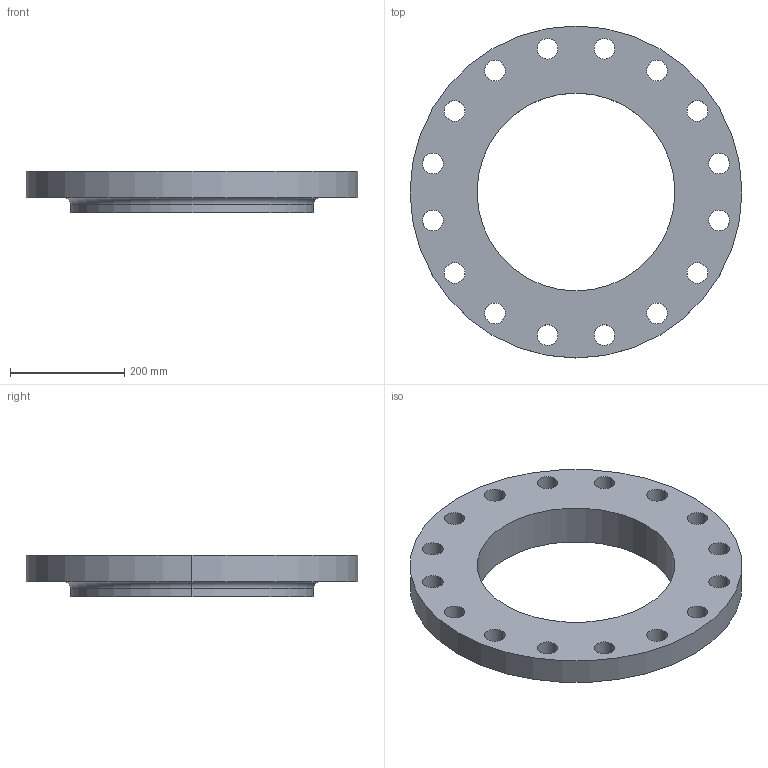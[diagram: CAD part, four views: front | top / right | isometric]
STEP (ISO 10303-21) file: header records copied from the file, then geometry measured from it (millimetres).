
FILE_DESCRIPTION (( 'STEP AP214' ), '1' );
FILE_NAME ('PN40 DN350 Type 13 - Type A Face.STEP', '2019-01-05T21:49:20', ( '' ), ( '' ), 'SwSTEP 2.0', 'SolidWorks 2019', '' );
FILE_SCHEMA (( 'AUTOMOTIVE_DESIGN' ));
Length unit declared in the file: millimetre
Products named in the file (1): PN40 DN350 Type 13 - Type A Face
Bounding box: 580 x 580 x 72 mm (x, y, z)
Volume: 8360308.7 mm3; surface area: 581235.4 mm2
Topology: 1 solids, 1 shells, 43 faces, 118 edges, 78 vertices
Faces by surface type: cylinder 38, plane 3, torus 2
Entity records: 1518 total; most frequent: DIRECTION 286, CARTESIAN_POINT 240, ORIENTED_EDGE 236, AXIS2_PLACEMENT_3D 124, EDGE_CURVE 118, CIRCLE 80, VERTEX_POINT 78, EDGE_LOOP 78
